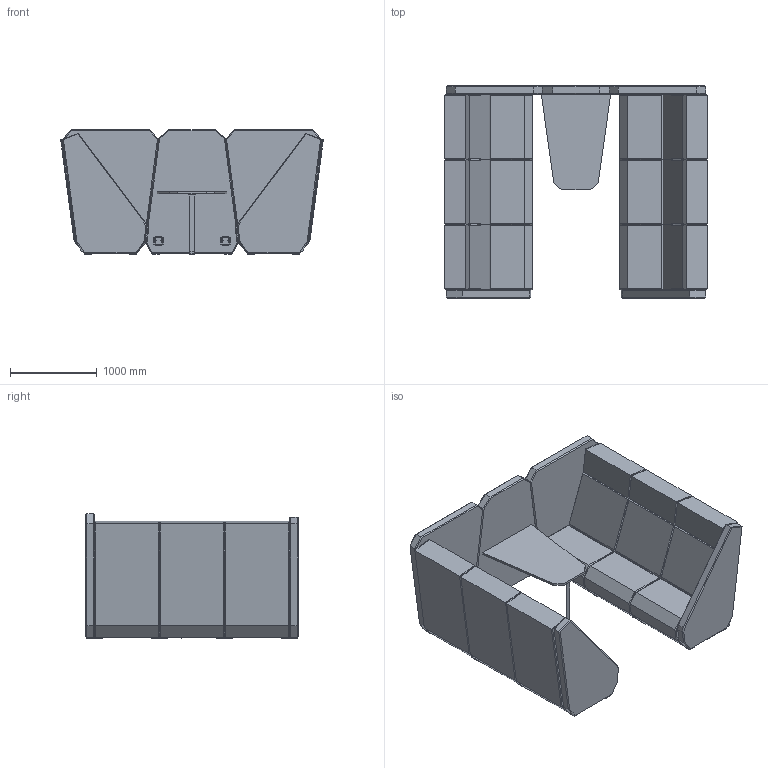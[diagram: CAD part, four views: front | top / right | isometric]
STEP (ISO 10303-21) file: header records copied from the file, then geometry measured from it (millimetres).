
FILE_DESCRIPTION(/* description */ (''),/* implementation_level */ '2;1');
FILE_NAME(/* name */ 'BOXKM3~1',/* time_stamp */ '2015-10-05T16:47:49+02:00',/* author */ (''),/* organization */ (''),/* preprocessor_version */ 'ST-DEVELOPER v15',/* originating_system */ '',/* authorisation */ '');
FILE_SCHEMA (('CONFIG_CONTROL_DESIGN'));
Length unit declared in the file: millimetre
Products named in the file (1): Document
Bounding box: 3029.47 x 2450 x 1439 mm (x, y, z)
Volume: 2895822569 mm3; surface area: 42210346.7 mm2
Topology: 35 solids, 51 shells, 774 faces, 1901 edges, 1110 vertices
Faces by surface type: bspline 640, plane 134
Entity records: 27011 total; most frequent: CARTESIAN_POINT 17401, ORIENTED_EDGE 3462, EDGE_CURVE 1794, VERTEX_POINT 1106, EDGE_LOOP 778, ADVANCED_FACE 774, FACE_OUTER_BOUND 774, B_SPLINE_CURVE_WITH_KNOTS 244
